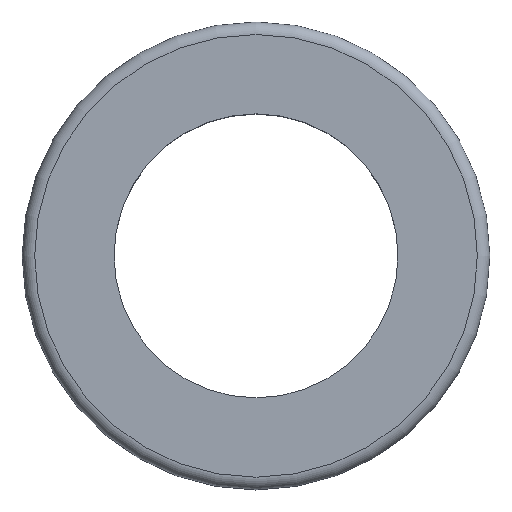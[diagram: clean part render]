
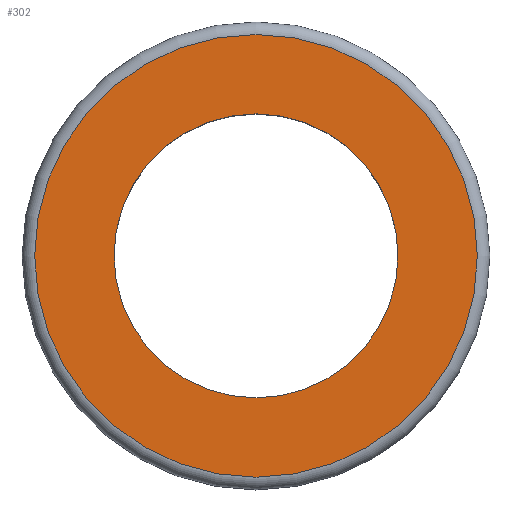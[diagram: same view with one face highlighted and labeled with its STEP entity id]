
A CAD part, top view. The second image highlights one B-rep face of the part: STEP entity #302.
In plain terms, the highlighted planar face has unit normal (0, 0, 1).
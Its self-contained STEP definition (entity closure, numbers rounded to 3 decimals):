
#31 = CYLINDRICAL_SURFACE('',#32,3.4);
#32 = AXIS2_PLACEMENT_3D('',#33,#34,#35);
#33 = CARTESIAN_POINT('',(0.,0.,2.4));
#34 = DIRECTION('',(0.,0.,1.));
#35 = DIRECTION('',(1.,0.,-0.));
#56 = VERTEX_POINT('',#57);
#57 = CARTESIAN_POINT('',(3.4,0.,4.5));
#78 = EDGE_CURVE('',#56,#56,#79,.T.);
#79 = SURFACE_CURVE('',#80,(#85,#92),.PCURVE_S1.);
#80 = CIRCLE('',#81,3.4);
#81 = AXIS2_PLACEMENT_3D('',#82,#83,#84);
#82 = CARTESIAN_POINT('',(0.,0.,4.5));
#83 = DIRECTION('',(0.,0.,1.));
#84 = DIRECTION('',(1.,0.,-0.));
#85 = PCURVE('',#31,#86);
#86 = DEFINITIONAL_REPRESENTATION('',(#87),#91);
#87 = LINE('',#88,#89);
#88 = CARTESIAN_POINT('',(0.,2.1));
#89 = VECTOR('',#90,1.);
#90 = DIRECTION('',(1.,0.));
#91 = ( GEOMETRIC_REPRESENTATION_CONTEXT(2) 
PARAMETRIC_REPRESENTATION_CONTEXT() REPRESENTATION_CONTEXT('2D SPACE',''
  ) );
#92 = PCURVE('',#93,#98);
#93 = PLANE('',#94);
#94 = AXIS2_PLACEMENT_3D('',#95,#96,#97);
#95 = CARTESIAN_POINT('',(0.,0.,4.5));
#96 = DIRECTION('',(0.,0.,1.));
#97 = DIRECTION('',(1.,0.,-0.));
#98 = DEFINITIONAL_REPRESENTATION('',(#99),#103);
#99 = CIRCLE('',#100,3.4);
#100 = AXIS2_PLACEMENT_2D('',#101,#102);
#101 = CARTESIAN_POINT('',(0.,0.));
#102 = DIRECTION('',(1.,-0.));
#103 = ( GEOMETRIC_REPRESENTATION_CONTEXT(2) 
PARAMETRIC_REPRESENTATION_CONTEXT() REPRESENTATION_CONTEXT('2D SPACE',''
  ) );
#239 = TOROIDAL_SURFACE('',#240,5.3,0.3);
#240 = AXIS2_PLACEMENT_3D('',#241,#242,#243);
#241 = CARTESIAN_POINT('',(0.,0.,4.2));
#242 = DIRECTION('',(0.,0.,1.));
#243 = DIRECTION('',(1.,0.,-0.));
#257 = VERTEX_POINT('',#258);
#258 = CARTESIAN_POINT('',(5.3,0.,4.5));
#280 = EDGE_CURVE('',#257,#257,#281,.T.);
#281 = SURFACE_CURVE('',#282,(#287,#294),.PCURVE_S1.);
#282 = CIRCLE('',#283,5.3);
#283 = AXIS2_PLACEMENT_3D('',#284,#285,#286);
#284 = CARTESIAN_POINT('',(0.,0.,4.5));
#285 = DIRECTION('',(0.,0.,1.));
#286 = DIRECTION('',(1.,0.,-0.));
#287 = PCURVE('',#239,#288);
#288 = DEFINITIONAL_REPRESENTATION('',(#289),#293);
#289 = LINE('',#290,#291);
#290 = CARTESIAN_POINT('',(0.,1.571));
#291 = VECTOR('',#292,1.);
#292 = DIRECTION('',(1.,0.));
#293 = ( GEOMETRIC_REPRESENTATION_CONTEXT(2) 
PARAMETRIC_REPRESENTATION_CONTEXT() REPRESENTATION_CONTEXT('2D SPACE',''
  ) );
#294 = PCURVE('',#93,#295);
#295 = DEFINITIONAL_REPRESENTATION('',(#296),#300);
#296 = CIRCLE('',#297,5.3);
#297 = AXIS2_PLACEMENT_2D('',#298,#299);
#298 = CARTESIAN_POINT('',(0.,0.));
#299 = DIRECTION('',(1.,-0.));
#300 = ( GEOMETRIC_REPRESENTATION_CONTEXT(2) 
PARAMETRIC_REPRESENTATION_CONTEXT() REPRESENTATION_CONTEXT('2D SPACE',''
  ) );
#302 = ADVANCED_FACE('',(#303,#306),#93,.T.);
#303 = FACE_BOUND('',#304,.F.);
#304 = EDGE_LOOP('',(#305));
#305 = ORIENTED_EDGE('',*,*,#78,.T.);
#306 = FACE_BOUND('',#307,.F.);
#307 = EDGE_LOOP('',(#308));
#308 = ORIENTED_EDGE('',*,*,#280,.F.);
